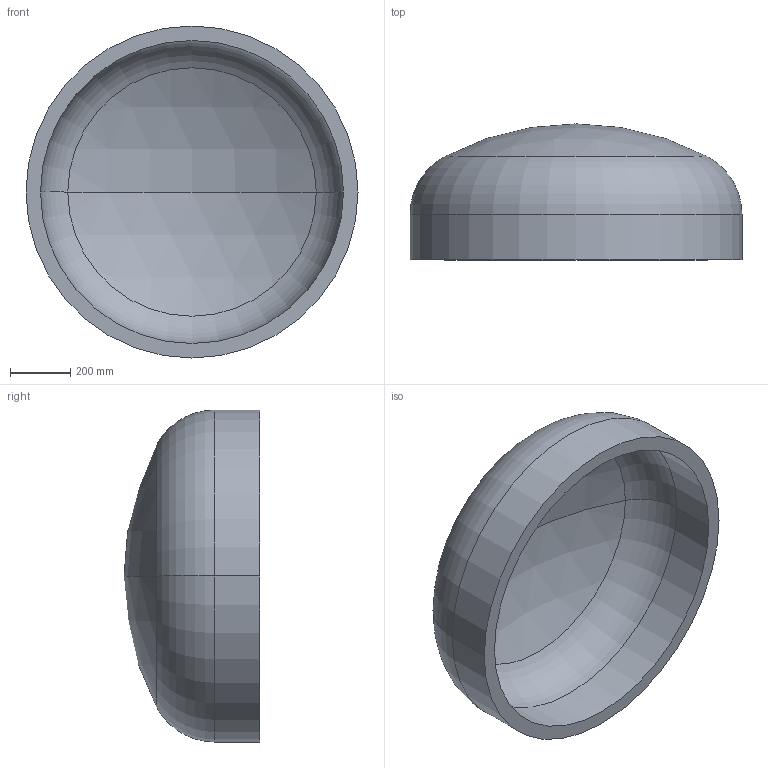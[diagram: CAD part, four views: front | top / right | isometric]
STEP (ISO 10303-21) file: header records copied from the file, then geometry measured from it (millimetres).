
FILE_DESCRIPTION (( 'STEP AP203' ), '1' );
FILE_NAME ('DIN 28013 Korbbogenform_-_Boden DIN 28013 - 1100 x 150 - I - s=48.step', '2016-07-01T09:09:27', ( '' ), ( '' ), 'SwSTEP 2.0', 'SolidWorks 2013', '' );
FILE_SCHEMA (( 'CONFIG_CONTROL_DESIGN' ));
Length unit declared in the file: millimetre
Products named in the file (1): DIN 28013 Korbbogenform_-_Boden DIN 28013 - 1100 x 150 - I - s=48
Bounding box: 1100 x 450.4 x 1100 mm (x, y, z)
Volume: 83553404.1 mm3; surface area: 3644854.4 mm2
Topology: 1 solids, 1 shells, 13 faces, 24 edges, 14 vertices
Faces by surface type: torus 4, cylinder 4, sphere 4, plane 1
Entity records: 407 total; most frequent: DIRECTION 72, CARTESIAN_POINT 52, ORIENTED_EDGE 48, AXIS2_PLACEMENT_3D 34, EDGE_CURVE 24, CIRCLE 20, EDGE_LOOP 14, VERTEX_POINT 14
